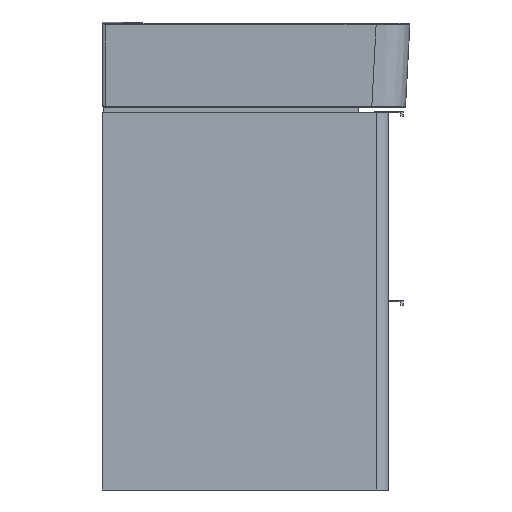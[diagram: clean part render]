
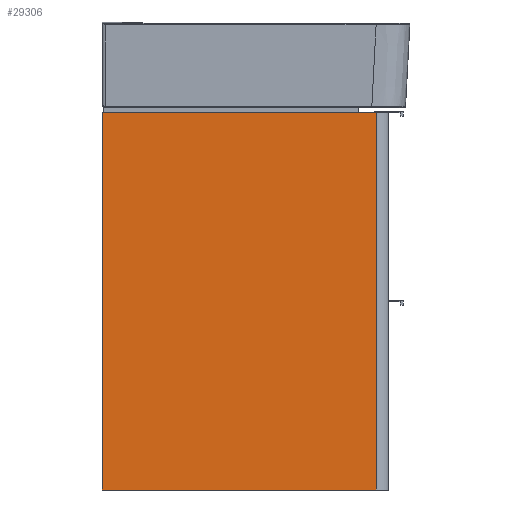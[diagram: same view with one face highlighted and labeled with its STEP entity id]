
A CAD part, left-side view. The second image highlights one B-rep face of the part: STEP entity #29306.
In plain terms, the highlighted planar face has unit normal (-1, 0, 0).
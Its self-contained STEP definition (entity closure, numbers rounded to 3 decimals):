
#5700=FACE_OUTER_BOUND('',#7026,.T.);
#7026=EDGE_LOOP('',(#22393,#22394,#22395,#22396));
#8520=LINE('',#41220,#10607);
#8522=LINE('',#41226,#10609);
#8526=LINE('',#41234,#10613);
#8527=LINE('',#41235,#10614);
#10607=VECTOR('',#33788,10.);
#10609=VECTOR('',#33794,10.);
#10613=VECTOR('',#33800,10.);
#10614=VECTOR('',#33801,10.);
#12684=VERTEX_POINT('',#41217);
#12685=VERTEX_POINT('',#41219);
#12687=VERTEX_POINT('',#41225);
#12690=VERTEX_POINT('',#41233);
#17301=EDGE_CURVE('',#12684,#12685,#8520,.T.);
#17304=EDGE_CURVE('',#12685,#12687,#8522,.T.);
#17308=EDGE_CURVE('',#12690,#12684,#8526,.T.);
#17309=EDGE_CURVE('',#12687,#12690,#8527,.T.);
#22393=ORIENTED_EDGE('',*,*,#17301,.F.);
#22394=ORIENTED_EDGE('',*,*,#17308,.F.);
#22395=ORIENTED_EDGE('',*,*,#17309,.F.);
#22396=ORIENTED_EDGE('',*,*,#17304,.F.);
#28777=PLANE('',#31053);
#29306=ADVANCED_FACE('',(#5700),#28777,.T.);
#31053=AXIS2_PLACEMENT_3D('',#41232,#33798,#33799);
#33788=DIRECTION('',(0.,0.,-1.));
#33794=DIRECTION('',(0.,1.,0.));
#33798=DIRECTION('center_axis',(-1.,0.,0.));
#33799=DIRECTION('ref_axis',(0.,-1.,0.));
#33800=DIRECTION('',(0.,-1.,0.));
#33801=DIRECTION('',(0.,0.,1.));
#41217=CARTESIAN_POINT('',(-589.75,-178.5,515.));
#41219=CARTESIAN_POINT('',(-589.75,-178.5,0.));
#41220=CARTESIAN_POINT('',(-589.75,-178.5,0.));
#41225=CARTESIAN_POINT('',(-589.75,195.5,0.));
#41226=CARTESIAN_POINT('',(-589.75,-195.5,0.));
#41232=CARTESIAN_POINT('Origin',(-589.75,195.5,0.));
#41233=CARTESIAN_POINT('',(-589.75,195.5,515.));
#41234=CARTESIAN_POINT('',(-589.75,-195.5,515.));
#41235=CARTESIAN_POINT('',(-589.75,195.5,0.));
